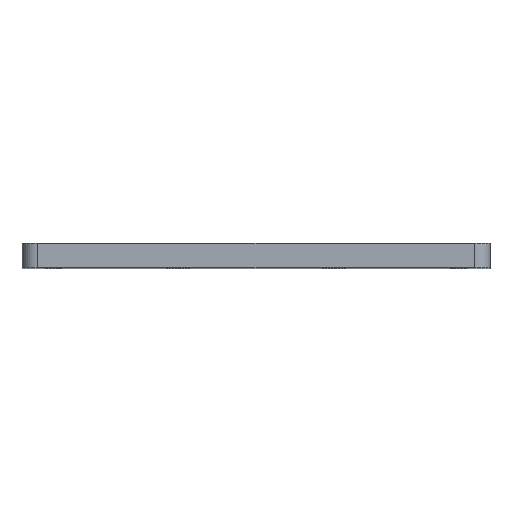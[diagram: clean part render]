
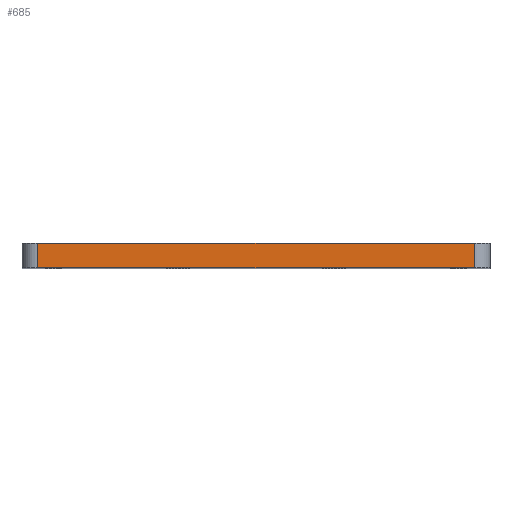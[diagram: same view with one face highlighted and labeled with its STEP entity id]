
A CAD part, top view. The second image highlights one B-rep face of the part: STEP entity #685.
In plain terms, the highlighted planar face has unit normal (0, 0, 1).
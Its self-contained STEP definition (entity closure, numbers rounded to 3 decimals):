
#62=PLANE('',#781);
#93=FACE_OUTER_BOUND('',#125,.T.);
#125=EDGE_LOOP('',(#563,#564,#565,#566));
#207=LINE('',#1166,#245);
#208=LINE('',#1169,#246);
#209=LINE('',#1171,#247);
#210=LINE('',#1172,#248);
#245=VECTOR('',#979,10.);
#246=VECTOR('',#982,10.);
#247=VECTOR('',#983,10.);
#248=VECTOR('',#984,10.);
#357=VERTEX_POINT('',#1162);
#358=VERTEX_POINT('',#1164);
#359=VERTEX_POINT('',#1168);
#360=VERTEX_POINT('',#1170);
#445=EDGE_CURVE('',#357,#358,#207,.T.);
#446=EDGE_CURVE('',#357,#359,#208,.T.);
#447=EDGE_CURVE('',#360,#358,#209,.T.);
#448=EDGE_CURVE('',#359,#360,#210,.T.);
#563=ORIENTED_EDGE('',*,*,#446,.F.);
#564=ORIENTED_EDGE('',*,*,#445,.T.);
#565=ORIENTED_EDGE('',*,*,#447,.F.);
#566=ORIENTED_EDGE('',*,*,#448,.F.);
#685=ADVANCED_FACE('',(#93),#62,.T.);
#781=AXIS2_PLACEMENT_3D('',#1167,#980,#981);
#979=DIRECTION('',(0.,1.,0.));
#980=DIRECTION('center_axis',(0.,0.,1.));
#981=DIRECTION('ref_axis',(1.,0.,0.));
#982=DIRECTION('',(-1.,0.,0.));
#983=DIRECTION('',(1.,0.,0.));
#984=DIRECTION('',(0.,1.,0.));
#1162=CARTESIAN_POINT('',(94.498,0.,0.));
#1164=CARTESIAN_POINT('',(94.498,6.2,0.));
#1166=CARTESIAN_POINT('',(94.498,0.,0.));
#1167=CARTESIAN_POINT('Origin',(-17.502,0.,0.));
#1168=CARTESIAN_POINT('',(-17.502,0.,0.));
#1169=CARTESIAN_POINT('',(94.498,0.,0.));
#1170=CARTESIAN_POINT('',(-17.502,6.2,0.));
#1171=CARTESIAN_POINT('',(94.498,6.2,0.));
#1172=CARTESIAN_POINT('',(-17.502,0.,0.));
